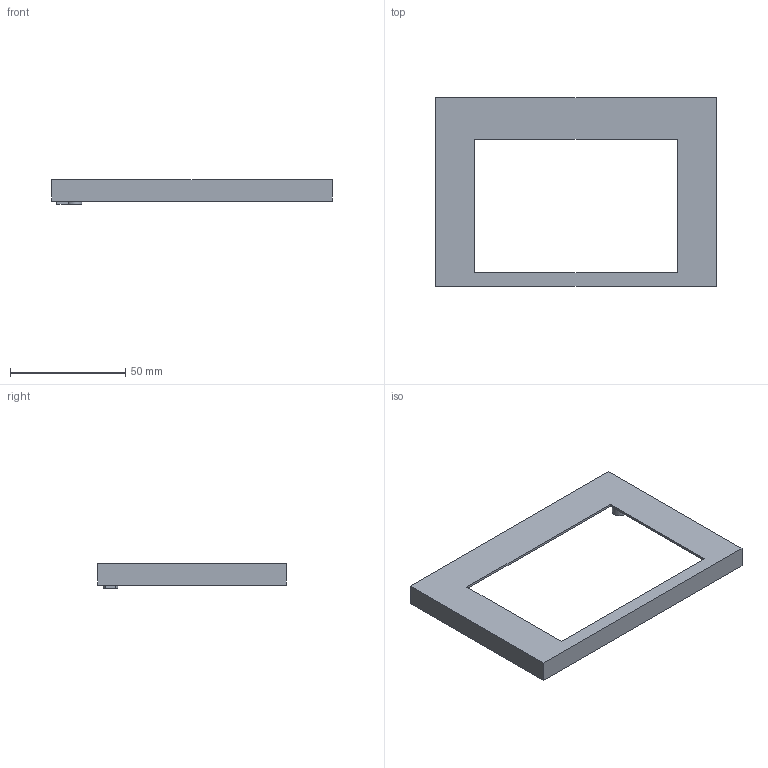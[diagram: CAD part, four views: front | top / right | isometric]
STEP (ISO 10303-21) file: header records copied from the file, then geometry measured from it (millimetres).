
FILE_DESCRIPTION(('Open CASCADE Model'),'2;1');
FILE_NAME('Open CASCADE Shape Model','2026-09-24T16:47:18',('Author'),( 'Open CASCADE'),'Open CASCADE STEP processor 8.0','Open CASCADE 8.0' ,'Unknown');
FILE_SCHEMA(('AP242_MANAGED_MODEL_BASED_3D_ENGINEERING_MIM_LF {1 0 10303 442 1 1 4 }' ));
Length unit declared in the file: millimetre
Products named in the file (1): Open CASCADE STEP translator 8.0 2
Bounding box: 122 x 82 x 10.64 mm (x, y, z)
Volume: 12966.2 mm3; surface area: 17706.6 mm2
Topology: 1 solids, 1 shells, 35 faces, 76 edges, 50 vertices
Faces by surface type: plane 27, cylinder 8
Full cylindrical faces by diameter (mm): 2.9 x4, 6.4 x4
Entity records: 1958 total; most frequent: DIRECTION 318, CARTESIAN_POINT 314, LINE 192, VECTOR 192, ORIENTED_EDGE 152, PCURVE 152, DEFINITIONAL_REPRESENTATION 152, EDGE_CURVE 76
